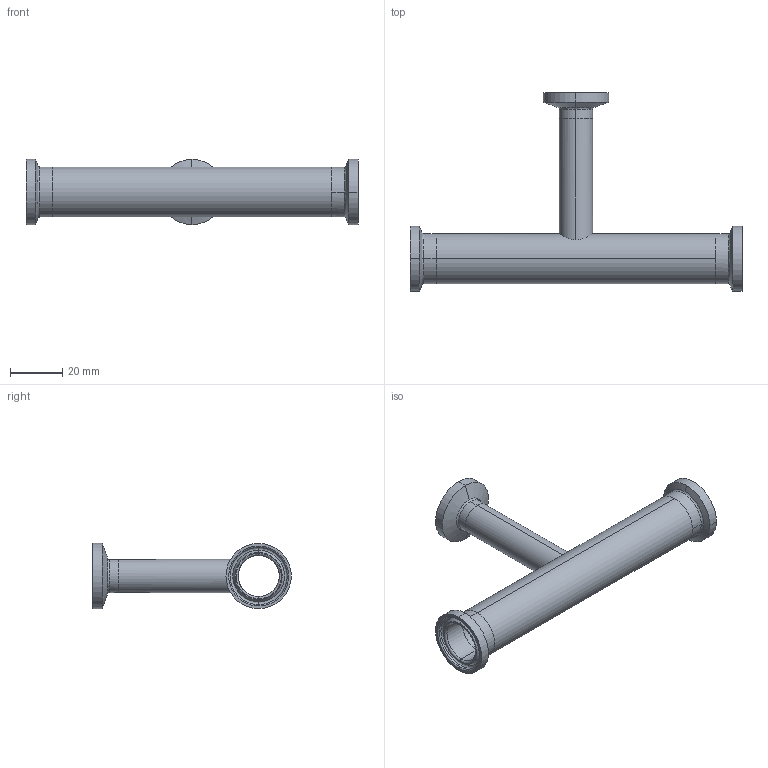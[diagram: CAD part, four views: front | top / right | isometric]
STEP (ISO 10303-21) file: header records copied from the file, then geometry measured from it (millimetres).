
FILE_DESCRIPTION (( 'STEP AP214' ), '1' );
FILE_NAME ('TEG7R6L.75x.5-...STEP', '2016-05-24T04:54:05', ( 'eran' ), ( '' ), 'SwSTEP 2.0', 'SolidWorks 2016', '' );
FILE_SCHEMA (( 'AUTOMOTIVE_DESIGN' ));
Length unit declared in the file: millimetre
Products named in the file (1): TEG7R6L.75x.5-..
Bounding box: 127 x 76 x 24.99 mm (x, y, z)
Volume: 16959.4 mm3; surface area: 20200.8 mm2
Topology: 4 solids, 4 shells, 80 faces, 188 edges, 120 vertices
Faces by surface type: cylinder 32, bspline 24, plane 12, cone 12
Entity records: 2837 total; most frequent: CARTESIAN_POINT 933, DIRECTION 414, ORIENTED_EDGE 376, EDGE_CURVE 188, AXIS2_PLACEMENT_3D 185, CIRCLE 128, VERTEX_POINT 120, EDGE_LOOP 94
